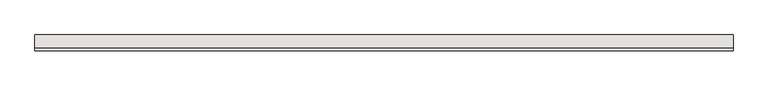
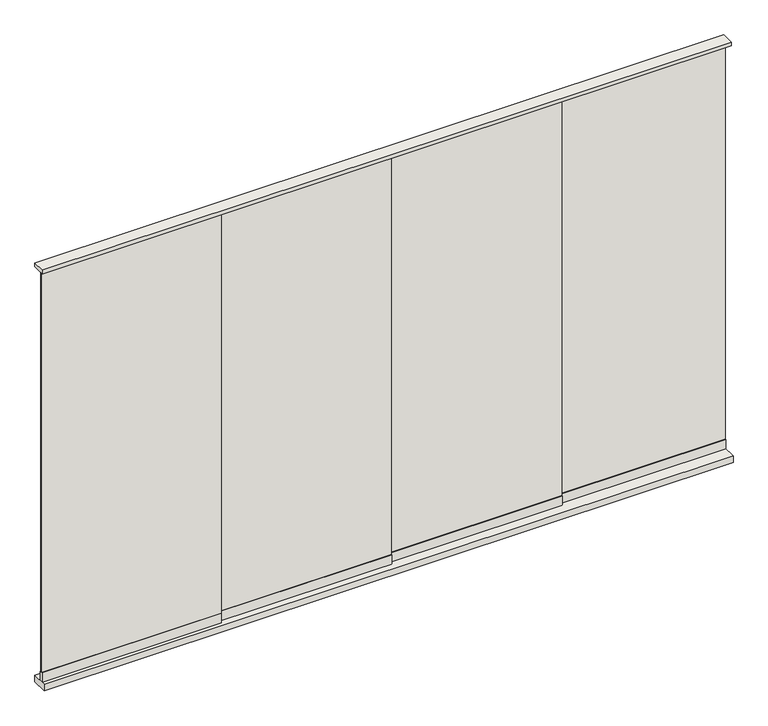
"""IFC4 building model written with IfcOpenShell, lengths in millimetres: wall geometry, Renson_Algarve_Glass_Sliding_Panel : Renson_Algarve_Glass_Sliding_Panel."""

from ifc_helpers import new_model, si_unit, frame, origin, origin_with_axes, place, context, project, spatial, polyline, outline, extrude, source, transform, mapped, element, save


def wall_d576aa66(model_context):
    return source(origin(), model_context, "Body", "SweptSolid", [
        extrude(outline(polyline([(750.0, 0.0), (750.0, -80.0), (-2750.0, -80.0), (-2750.0, 0.0), (750.0, 0.0)])), origin_with_axes(), (0.0, 0.0, 1.0), 35.0),
        extrude(outline(polyline([(750.0, -3.0), (750.0, -13.0), (-125.0, -13.0), (-125.0, -3.0), (750.0, -3.0)])), frame((0.0, 0.0, 86.0), z_axis=(0.0, 0.0, 1.0), x_axis=(1.0, 0.0, 0.0)), (0.0, 0.0, 1.0), 2144.0),
        extrude(outline(polyline([(-90.0, -19.0), (-90.0, -29.0), (-1000.0, -29.0), (-1000.0, -19.0), (-90.0, -19.0)])), frame((0.0, 0.0, 86.0), z_axis=(0.0, 0.0, 1.0), x_axis=(1.0, 0.0, 0.0)), (0.0, 0.0, 1.0), 2144.0),
        extrude(outline(polyline([(-1840.0, -51.0), (-1840.0, -61.0), (-2750.0, -61.0), (-2750.0, -51.0), (-1840.0, -51.0)])), frame((0.0, 0.0, 86.0), z_axis=(0.0, 0.0, 1.0), x_axis=(1.0, 0.0, 0.0)), (0.0, 0.0, 1.0), 2144.0),
        extrude(outline(polyline([(750.0, 0.0), (750.0, -64.0), (-2750.0, -64.0), (-2750.0, 0.0), (750.0, 0.0)])), frame((0.0, 0.0, 2230.0), z_axis=(0.0, 0.0, 1.0), x_axis=(1.0, 0.0, 0.0)), (0.0, 0.0, 1.0), 20.0),
        extrude(outline(polyline([(-1840.0, -48.0), (-1840.0, -64.0), (-2750.0, -64.0), (-2750.0, -48.0), (-1840.0, -48.0)])), frame((0.0, 0.0, 35.0), z_axis=(0.0, 0.0, 1.0), x_axis=(1.0, 0.0, 0.0)), (0.0, 0.0, 1.0), 51.0),
        extrude(outline(polyline([(-965.0, -35.0), (-965.0, -45.0), (-1875.0, -45.0), (-1875.0, -35.0), (-965.0, -35.0)])), frame((0.0, 0.0, 86.0), z_axis=(0.0, 0.0, 1.0), x_axis=(1.0, 0.0, 0.0)), (0.0, 0.0, 1.0), 2144.0),
        extrude(outline(polyline([(750.0, 0.0), (750.0, -16.0), (-125.0, -16.0), (-125.0, 0.0), (750.0, 0.0)])), frame((0.0, 0.0, 35.0), z_axis=(0.0, 0.0, 1.0), x_axis=(1.0, 0.0, 0.0)), (0.0, 0.0, 1.0), 51.0),
        extrude(outline(polyline([(-90.0, -16.0), (-90.0, -32.0), (-1000.0, -32.0), (-1000.0, -16.0), (-90.0, -16.0)])), frame((0.0, 0.0, 35.0), z_axis=(0.0, 0.0, 1.0), x_axis=(1.0, 0.0, 0.0)), (0.0, 0.0, 1.0), 51.0),
        extrude(outline(polyline([(-965.0, -32.0), (-965.0, -48.0), (-1875.0, -48.0), (-1875.0, -32.0), (-965.0, -32.0)])), frame((0.0, 0.0, 35.0), z_axis=(0.0, 0.0, 1.0), x_axis=(1.0, 0.0, 0.0)), (0.0, 0.0, 1.0), 51.0),
    ])


if __name__ == "__main__":
    model = new_model("IFC4")
    model_context = context("Model", 3, world=origin())
    ifc_project = project(units=[si_unit("LENGTHUNIT", "METRE", prefix="MILLI")], contexts=[model_context])
    site = spatial("IfcSite", under=ifc_project)
    building = spatial("IfcBuilding", under=site)
    placement = place(None, origin())
    wall_shape = wall_d576aa66(model_context)
    element("IfcWall", 1, ObjectType="Renson_Algarve_Glass_Sliding_Panel : Renson_Algarve_Glass_Sliding_Panel", at=placement, inside=building, context=model_context, shape_type="MappedRepresentation", body=[
        mapped(wall_shape, transform((0.0, 0.0, 0.0), x_axis=(1.0, 0.0, 0.0), y_axis=(0.0, 1.0, 0.0), z_axis=(0.0, 0.0, 1.0))),
    ])
    save(model, "model.ifc")
